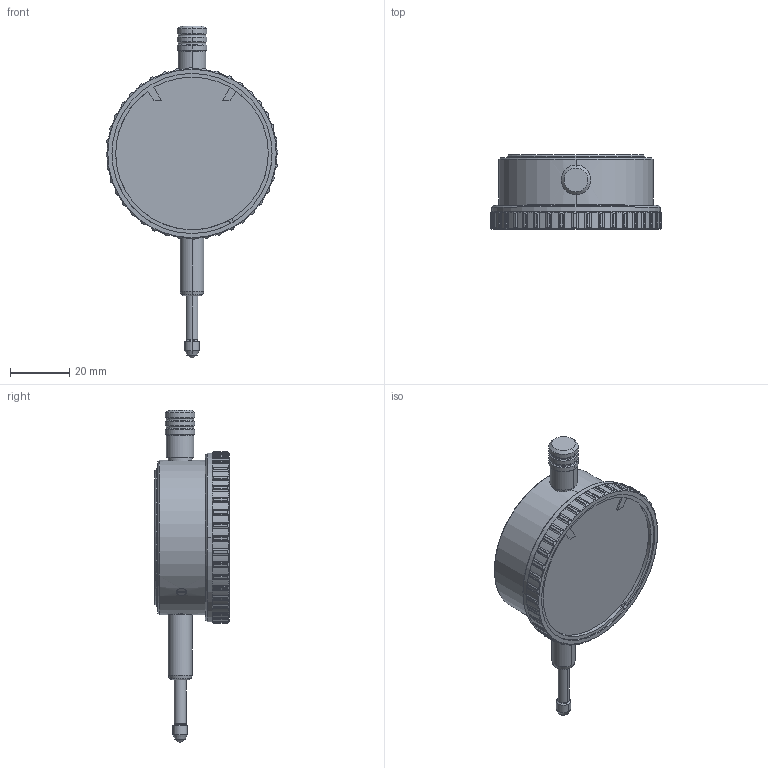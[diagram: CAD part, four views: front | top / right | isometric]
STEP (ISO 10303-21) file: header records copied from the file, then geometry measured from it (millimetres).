
FILE_DESCRIPTION(('STEP AP214'),'1');
FILE_NAME('SI-915.STP','2016-07-21T07:37:32',(' '),(' '),'Spatial InterOp 3D',' ',' ');
FILE_SCHEMA(('automotive_design'));
Length unit declared in the file: millimetre
Products named in the file (1): 1
Bounding box: 58 x 25 x 111.99 mm (x, y, z)
Volume: 55121.2 mm3; surface area: 11006.7 mm2
Topology: 1 solids, 4 shells, 415 faces, 1121 edges, 731 vertices
Faces by surface type: cylinder 245, plane 129, cone 40, sphere 1
Entity records: 14650 total; most frequent: CARTESIAN_POINT 4769, ORIENTED_EDGE 2242, DIRECTION 1926, EDGE_CURVE 1121, AXIS2_PLACEMENT_3D 757, VERTEX_POINT 731, EDGE_LOOP 438, ADVANCED_FACE 415
